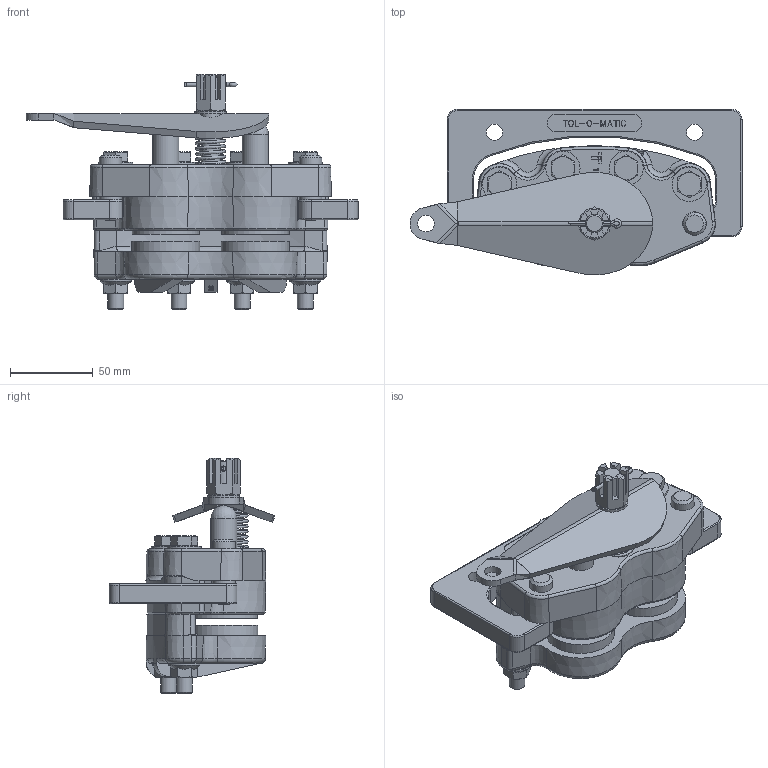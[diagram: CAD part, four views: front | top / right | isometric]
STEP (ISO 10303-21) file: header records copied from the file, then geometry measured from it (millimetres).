
FILE_DESCRIPTION (( 'STEP AP203' ), '1' );
FILE_NAME ('07450001_07450001-492321-1.step', '2025-07-08T17:21:01', ( '' ), ( '' ), 'SwSTEP 2.0', 'SolidWorks 2024', '' );
FILE_SCHEMA (( 'CONFIG_CONTROL_DESIGN' ));
Length unit declared in the file: inch
Products named in the file (2): 07450001_07450001-492321-1; Base_07450001_07450001-492321-1
Assembly tree (1 placements, depth 2):
  07450001_07450001-492321-1
    Base_07450001_07450001-492321-1
Bounding box: 200.15 x 99.93 x 141.82 mm (x, y, z)
Volume: 615362.1 mm3; surface area: 147105.8 mm2
Topology: 6 solids, 16 shells, 1147 faces, 2923 edges, 1881 vertices
Faces by surface type: plane 751, cylinder 156, torus 94, cone 89, bspline 53, sphere 4
Full cylindrical faces by diameter (mm): 1.676 x1, 3.15 x1, 3.797 x2, 4.826 x2, 5.156 x2, 8.433 x4, 9.271 x2, 9.525 x8, 9.804 x2, 9.906 x4, 10.084 x1, 10.312 x4, 11.1 x3, 11.113 x1, 11.43 x1, 11.506 x1, 13.487 x1, 13.627 x2, 14.275 x6, 15.85 x2, 15.951 x2, 18.771 x4, 19.05 x1, 20.625 x4, 34.646 x2, 34.722 x2, 40.64 x2, 40.894 x4, 41.072 x2, 41.097 x2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
Entity records: 51616 total; most frequent: CARTESIAN_POINT 24949, ORIENTED_EDGE 5438, DIRECTION 5197, EDGE_CURVE 2719, VERTEX_POINT 1815, LINE 1745, VECTOR 1745, AXIS2_PLACEMENT_3D 1726
